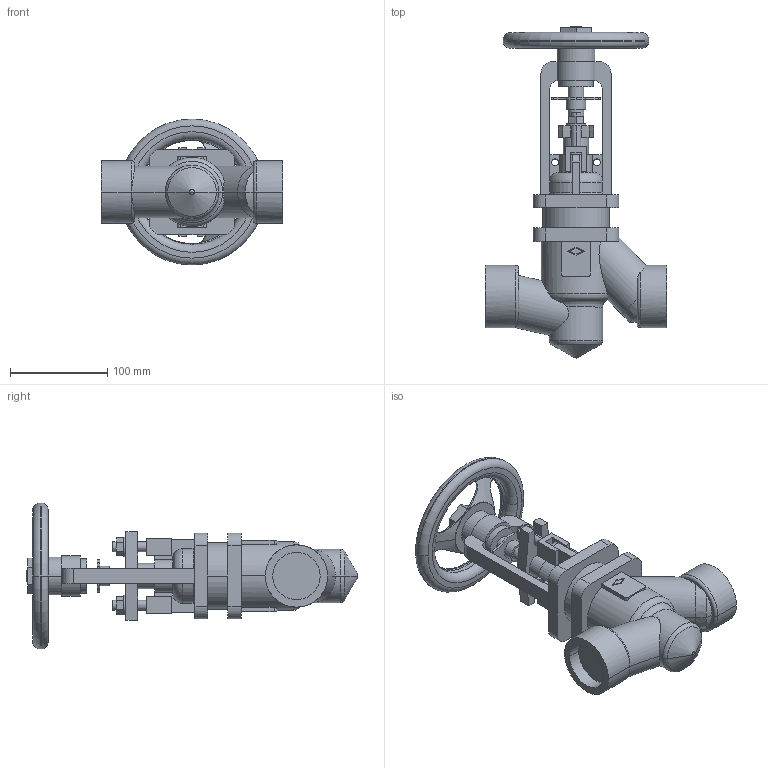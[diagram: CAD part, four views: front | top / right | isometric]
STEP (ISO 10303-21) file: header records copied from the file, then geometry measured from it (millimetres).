
FILE_DESCRIPTION(('OneSpaceDesigner STEP Export'),'2;1');
FILE_NAME('c000004269.stp','2010-05-04T10:46:22',(''),(''),'OneSpace Designer STEP processor for AP214 (Solid Model)','OneSpace Modeling 15.50B 03-Nov-2007 (C) CoCreate Software GmbH','');
FILE_SCHEMA(('AUTOMOTIVE_DESIGN { 1 0 10303 214 1 1 1 1 }'));
Length unit declared in the file: millimetre
Products named in the file (1): 1
Bounding box: 186 x 341.13 x 150 mm (x, y, z)
Volume: 1358733.3 mm3; surface area: 176058.9 mm2
Topology: 1 solids, 1 shells, 284 faces, 768 edges, 504 vertices
Faces by surface type: plane 141, cylinder 101, torus 28, cone 12, sphere 2
Entity records: 11609 total; most frequent: CARTESIAN_POINT 2534, ORIENTED_EDGE 1528, DIRECTION 1274, EDGE_CURVE 764, VERTEX_POINT 500, AXIS2_PLACEMENT_3D 432, VECTOR 410, LINE 410
